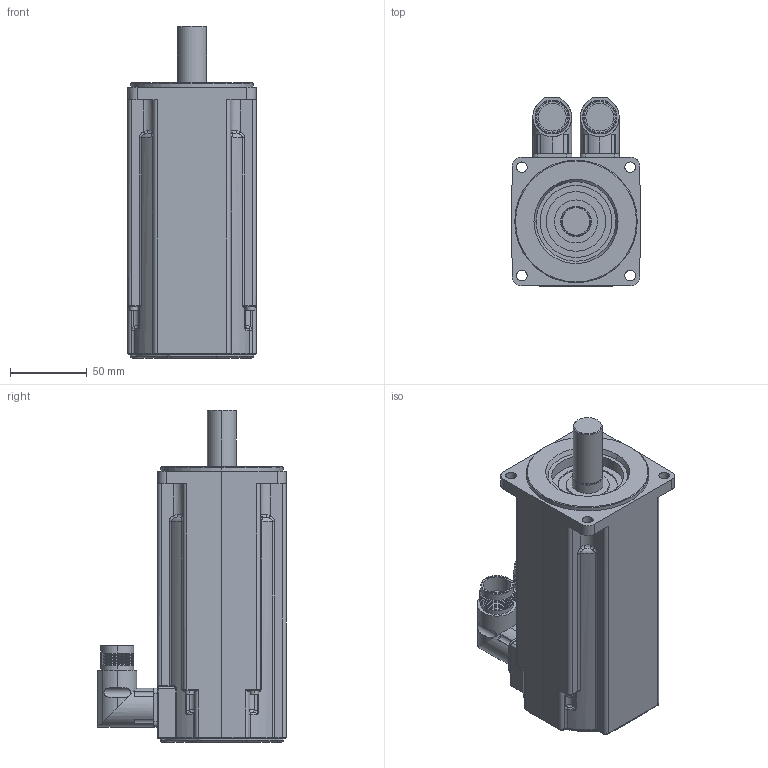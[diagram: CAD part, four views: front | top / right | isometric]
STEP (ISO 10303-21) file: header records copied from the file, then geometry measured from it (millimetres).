
FILE_DESCRIPTION (( 'STEP AP214' ), '1' );
FILE_NAME ('MR7743-Ux-Nxx-G01-A0D-M0-P0.stp', '2009-04-08T13:46:00', ( 'SysAdmin' ), ( 'SolidWorks' ), 'SwSTEP 2.0', 'SolidWorks 2009', '' );
FILE_SCHEMA (( 'AUTOMOTIVE_DESIGN' ));
Length unit declared in the file: millimetre
Products named in the file (1): MR7743-Ux-Nxx-G01-A0D-M0-P0
Bounding box: 84 x 123 x 216.8 mm (x, y, z)
Volume: 1137414.2 mm3; surface area: 86465 mm2
Topology: 1 solids, 1 shells, 578 faces, 1382 edges, 812 vertices
Faces by surface type: cylinder 202, plane 120, cone 104, torus 96, bspline 54, sphere 2
Entity records: 25609 total; most frequent: CARTESIAN_POINT 6597, DIRECTION 2776, ORIENTED_EDGE 2732, EDGE_CURVE 1366, AXIS2_PLACEMENT_3D 1187, VERTEX_POINT 812, CIRCLE 662, EDGE_LOOP 608
